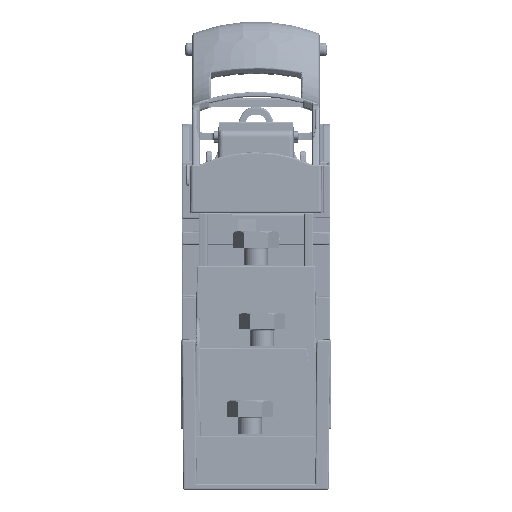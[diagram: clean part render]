
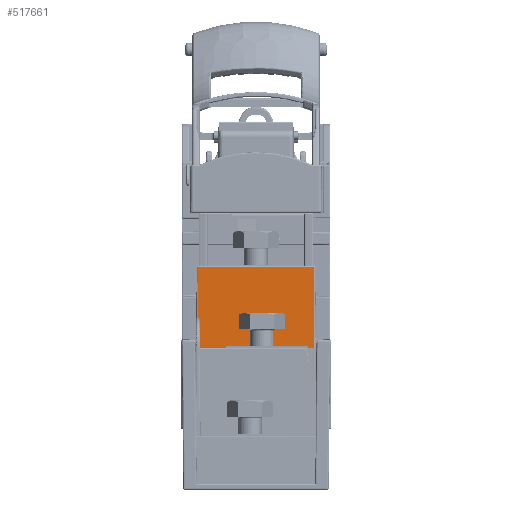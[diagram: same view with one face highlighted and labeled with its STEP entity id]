
A CAD part, left-side view. The second image highlights one B-rep face of the part: STEP entity #517661.
In plain terms, the highlighted planar face has unit normal (-1, 0, 0.009).
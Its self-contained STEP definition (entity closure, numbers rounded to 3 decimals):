
#25617 = CARTESIAN_POINT ( 'NONE',  ( -84.413, 19.8, 38. ) ) ;
#25804 = LINE ( 'NONE', #25617, #389442 ) ;
#25814 = DIRECTION ( 'NONE',  ( 0., -1., 0. ) ) ;
#30011 = AXIS2_PLACEMENT_3D ( 'NONE', #33408, #33410, #33413 ) ;
#33305 = PLANE ( 'NONE',  #30011 ) ;
#33362 = FACE_OUTER_BOUND ( 'NONE', #497653, .T. ) ;
#33408 = CARTESIAN_POINT ( 'NONE',  ( -84.5, 19.8, 28. ) ) ;
#33410 = DIRECTION ( 'NONE',  ( -1., 0., 0.009 ) ) ;
#33413 = DIRECTION ( 'NONE',  ( 0.009, 0., 1. ) ) ;
#39546 =( BOUNDED_CURVE ( )  B_SPLINE_CURVE ( 3, ( #375274, #375297, #375301, #375306 ),
 .UNSPECIFIED., .F., .T. ) 
 B_SPLINE_CURVE_WITH_KNOTS ( ( 4, 4 ),
 ( 3.142, 3.657 ),
 .UNSPECIFIED. ) 
 CURVE ( )  GEOMETRIC_REPRESENTATION_ITEM ( )  RATIONAL_B_SPLINE_CURVE ( ( 1., 0.978, 0.978, 1. ) ) 
 REPRESENTATION_ITEM ( '' )  );
#41146 =( BOUNDED_CURVE ( )  B_SPLINE_CURVE ( 3, ( #293088, #293125, #293131, #293137 ),
 .UNSPECIFIED., .F., .T. ) 
 B_SPLINE_CURVE_WITH_KNOTS ( ( 4, 4 ),
 ( 4.721, 6.283 ),
 .UNSPECIFIED. ) 
 CURVE ( )  GEOMETRIC_REPRESENTATION_ITEM ( )  RATIONAL_B_SPLINE_CURVE ( ( 1., 0.807, 0.807, 1. ) ) 
 REPRESENTATION_ITEM ( '' )  );
#47064 = VECTOR ( 'NONE', #293406, 1000. ) ;
#68682 = LINE ( 'NONE', #68701, #330220 ) ;
#68701 = CARTESIAN_POINT ( 'NONE',  ( -84.267, 19.089, 54.703 ) ) ;
#68714 = DIRECTION ( 'NONE',  ( -0.009, 0.009, -1. ) ) ;
#92102 = VECTOR ( 'NONE', #326538, 1000. ) ;
#92128 = VECTOR ( 'NONE', #327357, 1000. ) ;
#92522 = VECTOR ( 'NONE', #371775, 1000. ) ;
#92658 = VECTOR ( 'NONE', #373196, 1000. ) ;
#92734 = VECTOR ( 'NONE', #373783, 1000. ) ;
#92839 = VECTOR ( 'NONE', #374841, 1000. ) ;
#92888 = VECTOR ( 'NONE', #375248, 1000. ) ;
#120474 = VERTEX_POINT ( 'NONE', #365832 ) ;
#120574 = VERTEX_POINT ( 'NONE', #365859 ) ;
#120591 = VERTEX_POINT ( 'NONE', #365863 ) ;
#120602 = VERTEX_POINT ( 'NONE', #365866 ) ;
#120956 = VERTEX_POINT ( 'NONE', #365960 ) ;
#121584 = VERTEX_POINT ( 'NONE', #366144 ) ;
#121612 = VERTEX_POINT ( 'NONE', #366153 ) ;
#121708 = VERTEX_POINT ( 'NONE', #366181 ) ;
#122600 = VERTEX_POINT ( 'NONE', #366437 ) ;
#123171 = VERTEX_POINT ( 'NONE', #366685 ) ;
#123675 = VERTEX_POINT ( 'NONE', #366963 ) ;
#124297 = VERTEX_POINT ( 'NONE', #367148 ) ;
#124527 = VERTEX_POINT ( 'NONE', #367220 ) ;
#127497 = VERTEX_POINT ( 'NONE', #373807 ) ;
#127721 = VECTOR ( 'NONE', #144242, 1000. ) ;
#130575 = VERTEX_POINT ( 'NONE', #159002 ) ;
#144235 = LINE ( 'NONE', #144239, #127721 ) ;
#144239 = CARTESIAN_POINT ( 'NONE',  ( -84.513, 19.8, 26.5 ) ) ;
#144242 = DIRECTION ( 'NONE',  ( 0., -1., 0. ) ) ;
#155741 = CARTESIAN_POINT ( 'NONE',  ( -84.513, -2.02, 26.5 ) ) ;
#155744 = CARTESIAN_POINT ( 'NONE',  ( -84.513, -2., 26.5 ) ) ;
#155746 = CARTESIAN_POINT ( 'NONE',  ( -84.513, -2.041, 26.5 ) ) ;
#155748 = CARTESIAN_POINT ( 'NONE',  ( -84.513, -2.061, 26.5 ) ) ;
#159002 = CARTESIAN_POINT ( 'NONE',  ( -84.513, -2.061, 26.5 ) ) ;
#190156 = EDGE_CURVE ( 'NONE', #127497, #130575, #211514, .T. ) ;
#211514 = B_SPLINE_CURVE_WITH_KNOTS ( 'NONE', 3,
 ( #155744, #155741, #155746, #155748 ),
 .UNSPECIFIED., .F., .F.,
 ( 4, 4 ),
 ( 0., 0. ),
 .UNSPECIFIED. ) ;
#216593 = EDGE_CURVE ( 'NONE', #121612, #121584, #25804, .T. ) ;
#225162 = EDGE_CURVE ( 'NONE', #130575, #120591, #144235, .T. ) ;
#259092 = EDGE_CURVE ( 'NONE', #121708, #124297, #326472, .T. ) ;
#259184 = EDGE_CURVE ( 'NONE', #124527, #121708, #327341, .T. ) ;
#259755 = EDGE_CURVE ( 'NONE', #120602, #123171, #371753, .T. ) ;
#259960 = EDGE_CURVE ( 'NONE', #120574, #120591, #373161, .T. ) ;
#260092 = EDGE_CURVE ( 'NONE', #122600, #120602, #373703, .T. ) ;
#260329 = EDGE_CURVE ( 'NONE', #120474, #124527, #374835, .T. ) ;
#260419 = EDGE_CURVE ( 'NONE', #120574, #120956, #375238, .T. ) ;
#260429 = EDGE_CURVE ( 'NONE', #120956, #122600, #39546, .T. ) ;
#262586 = EDGE_CURVE ( 'NONE', #123675, #121584, #41146, .T. ) ;
#262605 = EDGE_CURVE ( 'NONE', #120474, #123675, #293331, .T. ) ;
#268350 = EDGE_CURVE ( 'NONE', #123171, #121612, #68682, .T. ) ;
#277992 = ORIENTED_EDGE ( 'NONE', *, *, #190156, .T. ) ;
#277996 = ORIENTED_EDGE ( 'NONE', *, *, #225162, .T. ) ;
#278001 = ORIENTED_EDGE ( 'NONE', *, *, #259960, .F. ) ;
#278003 = ORIENTED_EDGE ( 'NONE', *, *, #260419, .T. ) ;
#278008 = ORIENTED_EDGE ( 'NONE', *, *, #260429, .T. ) ;
#278014 = ORIENTED_EDGE ( 'NONE', *, *, #260092, .T. ) ;
#278018 = ORIENTED_EDGE ( 'NONE', *, *, #259755, .T. ) ;
#278023 = ORIENTED_EDGE ( 'NONE', *, *, #268350, .T. ) ;
#278029 = ORIENTED_EDGE ( 'NONE', *, *, #216593, .T. ) ;
#278035 = ORIENTED_EDGE ( 'NONE', *, *, #262586, .F. ) ;
#278039 = ORIENTED_EDGE ( 'NONE', *, *, #262605, .F. ) ;
#278044 = ORIENTED_EDGE ( 'NONE', *, *, #260329, .T. ) ;
#278048 = ORIENTED_EDGE ( 'NONE', *, *, #259184, .T. ) ;
#278051 = ORIENTED_EDGE ( 'NONE', *, *, #259092, .T. ) ;
#278055 = ORIENTED_EDGE ( 'NONE', *, *, #421068, .T. ) ;
#293088 = CARTESIAN_POINT ( 'NONE',  ( -84.415, 18.638, 37.703 ) ) ;
#293125 = CARTESIAN_POINT ( 'NONE',  ( -84.414, 18.639, 37.877 ) ) ;
#293131 = CARTESIAN_POINT ( 'NONE',  ( -84.413, 18.763, 38. ) ) ;
#293137 = CARTESIAN_POINT ( 'NONE',  ( -84.413, 18.938, 38. ) ) ;
#293325 = CARTESIAN_POINT ( 'NONE',  ( -84.5, 18.553, 28. ) ) ;
#293331 = LINE ( 'NONE', #293325, #47064 ) ;
#293406 = DIRECTION ( 'NONE',  ( 0.009, 0.009, 1. ) ) ;
#326465 = CARTESIAN_POINT ( 'NONE',  ( -84.513, 19.8, 26.5 ) ) ;
#326472 = LINE ( 'NONE', #326465, #92102 ) ;
#326538 = DIRECTION ( 'NONE',  ( 0., -1., 0. ) ) ;
#327341 = LINE ( 'NONE', #327352, #92128 ) ;
#327352 = CARTESIAN_POINT ( 'NONE',  ( -84.5, 4.413, 28. ) ) ;
#327357 = DIRECTION ( 'NONE',  ( -0.009, -0.009, -1. ) ) ;
#330220 = VECTOR ( 'NONE', #68714, 1000. ) ;
#365832 = CARTESIAN_POINT ( 'NONE',  ( -84.5, 18.553, 28. ) ) ;
#365859 = CARTESIAN_POINT ( 'NONE',  ( -84.5, -8.413, 28. ) ) ;
#365863 = CARTESIAN_POINT ( 'NONE',  ( -84.513, -8.4, 26.5 ) ) ;
#365866 = CARTESIAN_POINT ( 'NONE',  ( -84.267, -19.089, 54.703 ) ) ;
#365960 = CARTESIAN_POINT ( 'NONE',  ( -84.5, -18.831, 28. ) ) ;
#366144 = CARTESIAN_POINT ( 'NONE',  ( -84.413, 18.938, 38. ) ) ;
#366153 = CARTESIAN_POINT ( 'NONE',  ( -84.413, 19.235, 38. ) ) ;
#366181 = CARTESIAN_POINT ( 'NONE',  ( -84.513, 4.4, 26.5 ) ) ;
#366437 = CARTESIAN_POINT ( 'NONE',  ( -84.501, -19.323, 27.87 ) ) ;
#366685 = CARTESIAN_POINT ( 'NONE',  ( -84.267, 19.089, 54.703 ) ) ;
#366963 = CARTESIAN_POINT ( 'NONE',  ( -84.415, 18.638, 37.703 ) ) ;
#367148 = CARTESIAN_POINT ( 'NONE',  ( -84.513, -1.939, 26.5 ) ) ;
#367220 = CARTESIAN_POINT ( 'NONE',  ( -84.5, 4.413, 28. ) ) ;
#371722 = CARTESIAN_POINT ( 'NONE',  ( -84.267, 19.8, 54.703 ) ) ;
#371753 = LINE ( 'NONE', #371722, #92522 ) ;
#371775 = DIRECTION ( 'NONE',  ( 0., 1., 0. ) ) ;
#373161 = LINE ( 'NONE', #373186, #92658 ) ;
#373186 = CARTESIAN_POINT ( 'NONE',  ( -84.5, -8.413, 28. ) ) ;
#373196 = DIRECTION ( 'NONE',  ( -0.009, 0.009, -1. ) ) ;
#373698 = CARTESIAN_POINT ( 'NONE',  ( -84.501, -19.323, 27.87 ) ) ;
#373703 = LINE ( 'NONE', #373698, #92734 ) ;
#373783 = DIRECTION ( 'NONE',  ( 0.009, 0.009, 1. ) ) ;
#373807 = CARTESIAN_POINT ( 'NONE',  ( -84.513, -2., 26.5 ) ) ;
#374835 = LINE ( 'NONE', #374839, #92839 ) ;
#374839 = CARTESIAN_POINT ( 'NONE',  ( -84.5, 19.8, 28. ) ) ;
#374841 = DIRECTION ( 'NONE',  ( 0., -1., 0. ) ) ;
#375238 = LINE ( 'NONE', #375243, #92888 ) ;
#375243 = CARTESIAN_POINT ( 'NONE',  ( -84.5, 19.8, 28. ) ) ;
#375248 = DIRECTION ( 'NONE',  ( 0., -1., 0. ) ) ;
#375274 = CARTESIAN_POINT ( 'NONE',  ( -84.5, -18.831, 28. ) ) ;
#375297 = CARTESIAN_POINT ( 'NONE',  ( -84.5, -19.004, 28. ) ) ;
#375301 = CARTESIAN_POINT ( 'NONE',  ( -84.5, -19.172, 27.956 ) ) ;
#375306 = CARTESIAN_POINT ( 'NONE',  ( -84.501, -19.323, 27.87 ) ) ;
#389442 = VECTOR ( 'NONE', #25814, 1000. ) ;
#421068 = EDGE_CURVE ( 'NONE', #124297, #127497, #511672, .T. ) ;
#497653 = EDGE_LOOP ( 'NONE', ( #277992, #277996, #278001, #278003, #278008, #278014, #278018, #278023, #278029, #278035, #278039, #278044, #278048, #278051, #278055 ) ) ;
#511672 = B_SPLINE_CURVE_WITH_KNOTS ( 'NONE', 3,
 ( #515175, #515167, #515394, #515402 ),
 .UNSPECIFIED., .F., .F.,
 ( 4, 4 ),
 ( 0., 0. ),
 .UNSPECIFIED. ) ;
#515167 = CARTESIAN_POINT ( 'NONE',  ( -84.513, -1.959, 26.5 ) ) ;
#515175 = CARTESIAN_POINT ( 'NONE',  ( -84.513, -1.939, 26.5 ) ) ;
#515394 = CARTESIAN_POINT ( 'NONE',  ( -84.513, -1.98, 26.5 ) ) ;
#515402 = CARTESIAN_POINT ( 'NONE',  ( -84.513, -2., 26.5 ) ) ;
#517661 = ADVANCED_FACE ( 'NONE', ( #33362 ), #33305, .T. ) ;
